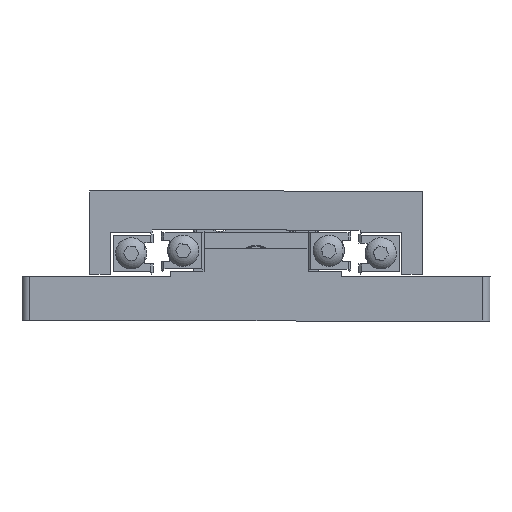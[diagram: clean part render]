
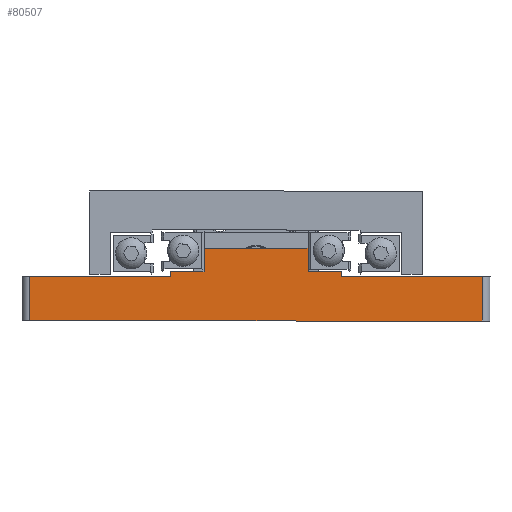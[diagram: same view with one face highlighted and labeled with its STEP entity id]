
A CAD part, left-side view. The second image highlights one B-rep face of the part: STEP entity #80507.
In plain terms, the highlighted planar face has unit normal (-1, 0, 0).
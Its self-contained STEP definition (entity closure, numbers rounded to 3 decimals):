
#20144 = ORIENTED_EDGE ( 'NONE', *, *, #35772, .T. ) ;
#20147 = ORIENTED_EDGE ( 'NONE', *, *, #35802, .T. ) ;
#20149 = ORIENTED_EDGE ( 'NONE', *, *, #35770, .T. ) ;
#20151 = ORIENTED_EDGE ( 'NONE', *, *, #35744, .T. ) ;
#20153 = ORIENTED_EDGE ( 'NONE', *, *, #35730, .T. ) ;
#20155 = ORIENTED_EDGE ( 'NONE', *, *, #35800, .F. ) ;
#20157 = ORIENTED_EDGE ( 'NONE', *, *, #35686, .F. ) ;
#20160 = ORIENTED_EDGE ( 'NONE', *, *, #35681, .T. ) ;
#20162 = ORIENTED_EDGE ( 'NONE', *, *, #35922, .F. ) ;
#20164 = ORIENTED_EDGE ( 'NONE', *, *, #35791, .T. ) ;
#20166 = ORIENTED_EDGE ( 'NONE', *, *, #35896, .T. ) ;
#20168 = ORIENTED_EDGE ( 'NONE', *, *, #35798, .F. ) ;
#35681 = EDGE_CURVE ( 'NONE', #107193, #107175, #55472, .T. ) ;
#35686 = EDGE_CURVE ( 'NONE', #107167, #107175, #54951, .T. ) ;
#35730 = EDGE_CURVE ( 'NONE', #89003, #107159, #55246, .T. ) ;
#35744 = EDGE_CURVE ( 'NONE', #107159, #107154, #55188, .T. ) ;
#35770 = EDGE_CURVE ( 'NONE', #107154, #89023, #55061, .T. ) ;
#35772 = EDGE_CURVE ( 'NONE', #89058, #89035, #55037, .T. ) ;
#35791 = EDGE_CURVE ( 'NONE', #88998, #107174, #54966, .T. ) ;
#35798 = EDGE_CURVE ( 'NONE', #89040, #89035, #55294, .T. ) ;
#35800 = EDGE_CURVE ( 'NONE', #89003, #107167, #55311, .T. ) ;
#35802 = EDGE_CURVE ( 'NONE', #89023, #89058, #55301, .T. ) ;
#35896 = EDGE_CURVE ( 'NONE', #89040, #88998, #53313, .T. ) ;
#35922 = EDGE_CURVE ( 'NONE', #107193, #107174, #53268, .T. ) ;
#50433 = CARTESIAN_POINT ( 'NONE',  ( -54.664, -6.258, 0. ) ) ;
#50447 = PLANE ( 'NONE',  #111164 ) ;
#50453 = DIRECTION ( 'NONE',  ( -1., 0., 0. ) ) ;
#50454 = DIRECTION ( 'NONE',  ( 0., -1., 0. ) ) ;
#51143 = FACE_OUTER_BOUND ( 'NONE', #102477, .T. ) ;
#53253 = VECTOR ( 'NONE', #70365, 1000. ) ;
#53268 = LINE ( 'NONE', #70387, #53253 ) ;
#53302 = VECTOR ( 'NONE', #70289, 1000. ) ;
#53313 = LINE ( 'NONE', #70285, #53302 ) ;
#54951 = LINE ( 'NONE', #69501, #55435 ) ;
#54966 = LINE ( 'NONE', #69828, #55167 ) ;
#55027 = VECTOR ( 'NONE', #69773, 1000. ) ;
#55037 = LINE ( 'NONE', #69769, #55027 ) ;
#55041 = VECTOR ( 'NONE', #69766, 1000. ) ;
#55061 = LINE ( 'NONE', #69762, #55041 ) ;
#55135 = VECTOR ( 'NONE', #69666, 1000. ) ;
#55167 = VECTOR ( 'NONE', #69833, 1000. ) ;
#55188 = LINE ( 'NONE', #69658, #55135 ) ;
#55199 = VECTOR ( 'NONE', #69613, 1000. ) ;
#55246 = LINE ( 'NONE', #69586, #55199 ) ;
#55288 = VECTOR ( 'NONE', #69842, 1000. ) ;
#55294 = LINE ( 'NONE', #69837, #55288 ) ;
#55301 = LINE ( 'NONE', #69873, #55319 ) ;
#55305 = VECTOR ( 'NONE', #69870, 1000. ) ;
#55311 = LINE ( 'NONE', #69866, #55305 ) ;
#55319 = VECTOR ( 'NONE', #69877, 1000. ) ;
#55435 = VECTOR ( 'NONE', #69504, 1000. ) ;
#55448 = VECTOR ( 'NONE', #69493, 1000. ) ;
#55472 = LINE ( 'NONE', #69471, #55448 ) ;
#56200 = CARTESIAN_POINT ( 'NONE',  ( -54.664, -49.758, 1.5 ) ) ;
#56210 = CARTESIAN_POINT ( 'NONE',  ( -54.664, 3.742, 7. ) ) ;
#56249 = CARTESIAN_POINT ( 'NONE',  ( -54.664, 10.242, 1.5 ) ) ;
#56273 = CARTESIAN_POINT ( 'NONE',  ( -54.664, 37.242, -7. ) ) ;
#56283 = CARTESIAN_POINT ( 'NONE',  ( -54.664, -49.758, -7. ) ) ;
#56325 = CARTESIAN_POINT ( 'NONE',  ( -54.664, 37.242, 1.5 ) ) ;
#69471 = CARTESIAN_POINT ( 'NONE',  ( -54.664, -6.258, 2.5 ) ) ;
#69493 = DIRECTION ( 'NONE',  ( 0., 1., 0. ) ) ;
#69501 = CARTESIAN_POINT ( 'NONE',  ( -54.664, -16.258, 0. ) ) ;
#69504 = DIRECTION ( 'NONE',  ( 0., 0., -1. ) ) ;
#69586 = CARTESIAN_POINT ( 'NONE',  ( -54.664, 3.742, 0. ) ) ;
#69613 = DIRECTION ( 'NONE',  ( 0., 0., -1. ) ) ;
#69658 = CARTESIAN_POINT ( 'NONE',  ( -54.664, -6.258, 2.5 ) ) ;
#69666 = DIRECTION ( 'NONE',  ( 0., 1., 0. ) ) ;
#69762 = CARTESIAN_POINT ( 'NONE',  ( -54.664, 10.242, 0. ) ) ;
#69766 = DIRECTION ( 'NONE',  ( 0., 0., -1. ) ) ;
#69769 = CARTESIAN_POINT ( 'NONE',  ( -54.664, 37.242, -7. ) ) ;
#69773 = DIRECTION ( 'NONE',  ( 0., 0., -1. ) ) ;
#69828 = CARTESIAN_POINT ( 'NONE',  ( -54.664, -6.258, 1.5 ) ) ;
#69833 = DIRECTION ( 'NONE',  ( 0., 1., 0. ) ) ;
#69837 = CARTESIAN_POINT ( 'NONE',  ( -54.664, -51.258, -7. ) ) ;
#69842 = DIRECTION ( 'NONE',  ( 0., 1., 0. ) ) ;
#69866 = CARTESIAN_POINT ( 'NONE',  ( -54.664, -51.258, 7. ) ) ;
#69870 = DIRECTION ( 'NONE',  ( 0., -1., 0. ) ) ;
#69873 = CARTESIAN_POINT ( 'NONE',  ( -54.664, -6.258, 1.5 ) ) ;
#69877 = DIRECTION ( 'NONE',  ( 0., 1., 0. ) ) ;
#70285 = CARTESIAN_POINT ( 'NONE',  ( -54.664, -49.758, 1.5 ) ) ;
#70289 = DIRECTION ( 'NONE',  ( 0., 0., 1. ) ) ;
#70365 = DIRECTION ( 'NONE',  ( 0., 0., -1. ) ) ;
#70387 = CARTESIAN_POINT ( 'NONE',  ( -54.664, -22.758, 0. ) ) ;
#80507 = ADVANCED_FACE ( 'NONE', ( #51143 ), #50447, .T. ) ;
#88998 = VERTEX_POINT ( 'NONE', #56200 ) ;
#89003 = VERTEX_POINT ( 'NONE', #56210 ) ;
#89023 = VERTEX_POINT ( 'NONE', #56249 ) ;
#89035 = VERTEX_POINT ( 'NONE', #56273 ) ;
#89040 = VERTEX_POINT ( 'NONE', #56283 ) ;
#89058 = VERTEX_POINT ( 'NONE', #56325 ) ;
#97942 = CARTESIAN_POINT ( 'NONE',  ( -54.664, 10.242, 2.5 ) ) ;
#98149 = CARTESIAN_POINT ( 'NONE',  ( -54.664, 3.742, 2.5 ) ) ;
#98156 = CARTESIAN_POINT ( 'NONE',  ( -54.664, -16.258, 7. ) ) ;
#98166 = CARTESIAN_POINT ( 'NONE',  ( -54.664, -22.758, 1.5 ) ) ;
#98173 = CARTESIAN_POINT ( 'NONE',  ( -54.664, -16.258, 2.5 ) ) ;
#98182 = CARTESIAN_POINT ( 'NONE',  ( -54.664, -22.758, 2.5 ) ) ;
#102477 = EDGE_LOOP ( 'NONE', ( #20168, #20166, #20164, #20162, #20160, #20157, #20155, #20153, #20151, #20149, #20147, #20144 ) ) ;
#107154 = VERTEX_POINT ( 'NONE', #97942 ) ;
#107159 = VERTEX_POINT ( 'NONE', #98149 ) ;
#107167 = VERTEX_POINT ( 'NONE', #98156 ) ;
#107174 = VERTEX_POINT ( 'NONE', #98166 ) ;
#107175 = VERTEX_POINT ( 'NONE', #98173 ) ;
#107193 = VERTEX_POINT ( 'NONE', #98182 ) ;
#111164 = AXIS2_PLACEMENT_3D ( 'NONE', #50433, #50453, #50454 ) ;
